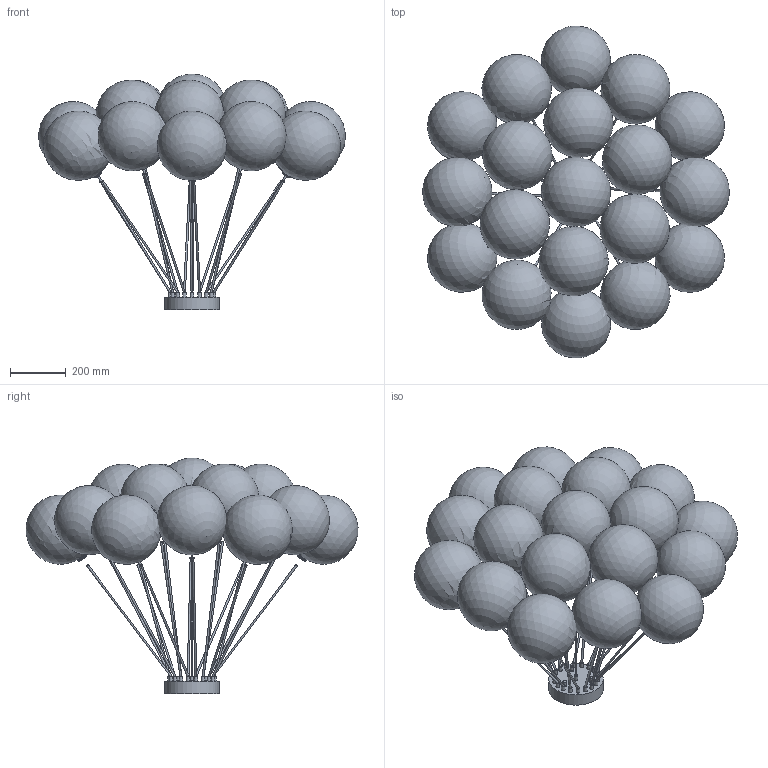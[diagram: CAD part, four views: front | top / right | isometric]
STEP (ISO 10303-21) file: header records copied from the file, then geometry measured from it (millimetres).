
FILE_DESCRIPTION(/* description */ (''),/* implementation_level */ '2;1');
FILE_NAME(/* name */ 'B654 Cloud 250.stp',/* time_stamp */ '2023-02-08T15:20:40+01:00',/* author */ ('Mariusz Awariusz'),/* organization */ (''),/* preprocessor_version */ 'ST-DEVELOPER v19.2',/* originating_system */ 'Autodesk Inventor 2023',/* authorisation */ '');
FILE_SCHEMA (('AUTOMOTIVE_DESIGN { 1 0 10303 214 3 1 1 }'));
Length unit declared in the file: millimetre
Products named in the file (1): B654 Cloud 250_jako część
Bounding box: 1103.9 x 1194.26 x 848.25 mm (x, y, z)
Volume: 9386710.3 mm3; surface area: 7826140.3 mm2
Topology: 136 solids, 136 shells, 731 faces, 1308 edges, 846 vertices
Faces by surface type: plane 253, cylinder 202, cone 181, torus 38, sphere 38, bspline 19
Full cylindrical faces by diameter (mm): 2.693 x14, 3 x14, 5.5 x14, 7 x19, 11 x19, 13 x63, 19.8 x19, 33 x19, 35 x19, 181 x1, 195 x1
Entity records: 17990 total; most frequent: DIRECTION 3483, CARTESIAN_POINT 3292, ORIENTED_EDGE 2440, AXIS2_PLACEMENT_3D 1550, EDGE_CURVE 1220, CIRCLE 837, EDGE_LOOP 826, VERTEX_POINT 818
